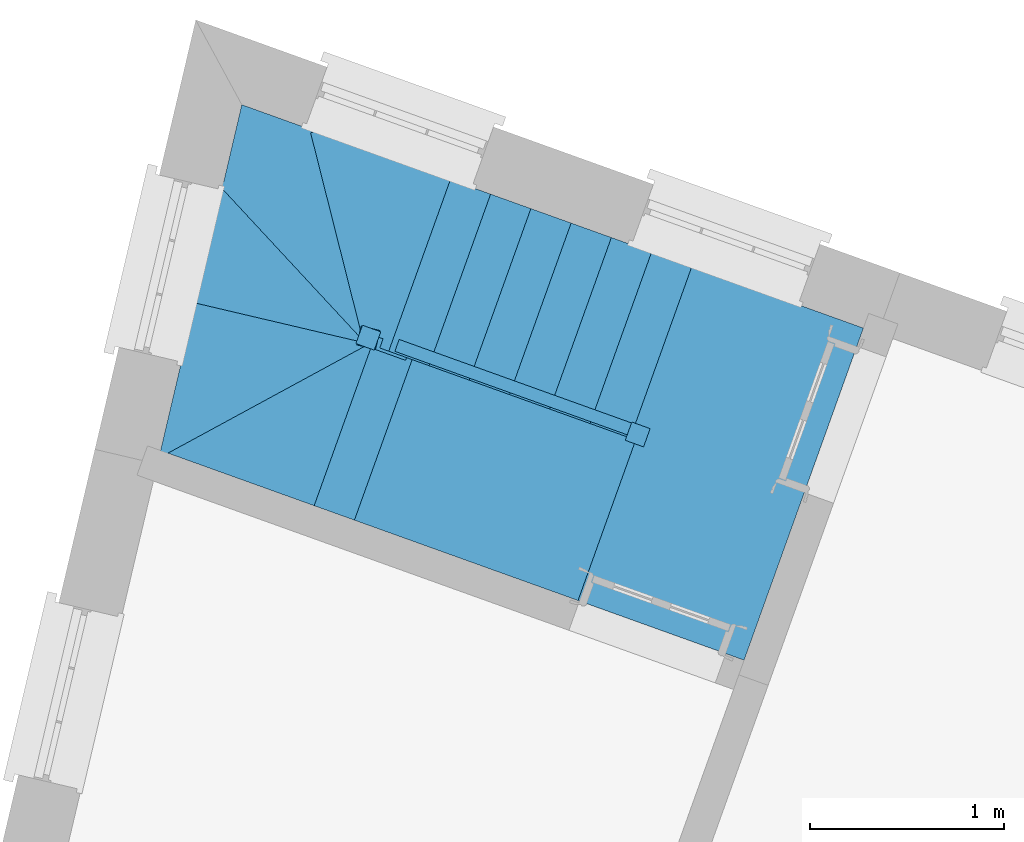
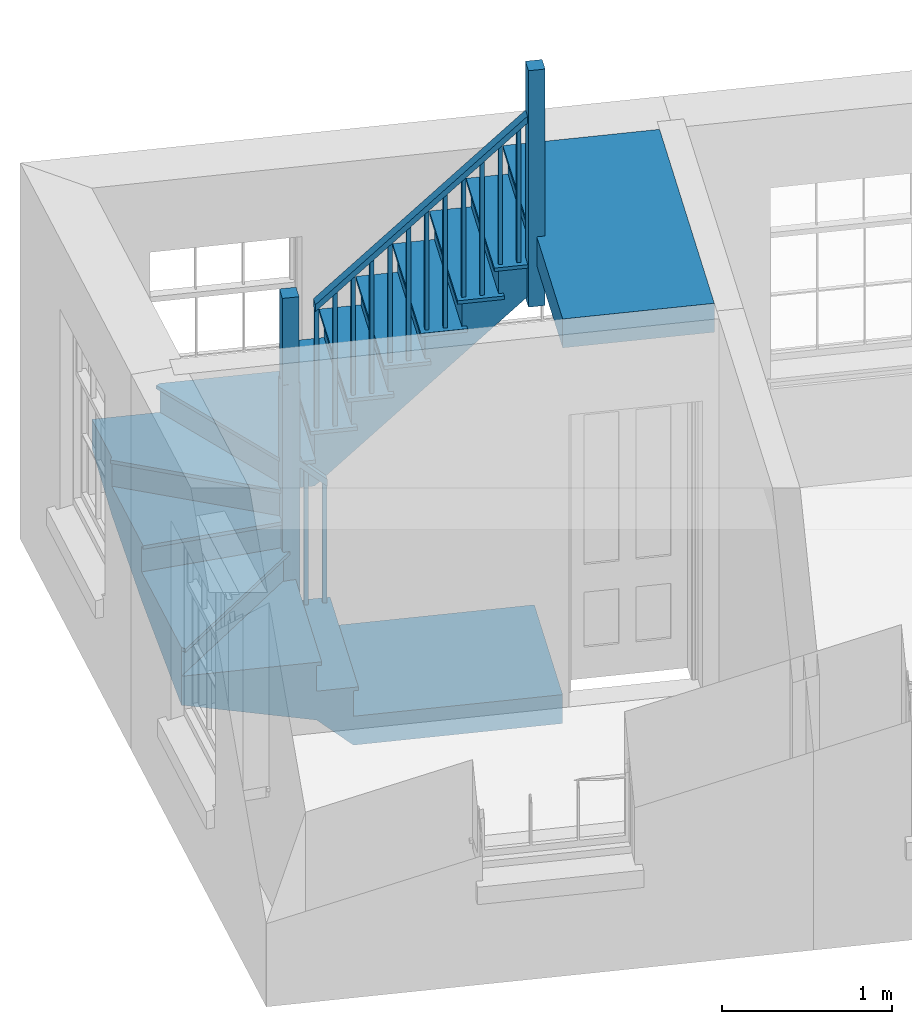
# One storey, part 3 of 3: 1 stair.
"""IFC4 building model written with IfcOpenShell, lengths in metres."""

import ifcopenshell
import ifcopenshell.guid

model = None  # the IFC model being written
_history = None  # IfcOwnerHistory: only IFC2X3 demands one
_inside = {}  # id of a spatial element -> (the spatial element, [elements in it])
_under = {}  # id of a project, library or spatial element -> (it, [spatial elements below it])
_declared = {}  # id of a project -> (the project, [libraries it declares])
_typed = {}  # id of a type object -> (the type object, [elements of that type])
_made_of = {}  # id of a material, layer set ... -> (it, [elements and type objects made of it])


def new_model(schema):
    """Start an empty IFC model of exactly this schema.

    Asked for "IFC4X3", IfcOpenShell would pick the latest addendum, in which some entities
    have other attributes; the version numbers below select the first issue.
    IFC2X3 requires an IfcOwnerHistory on every rooted entity: one is made here for all.
    """
    global model, _history
    if schema == "IFC4X3":
        model = ifcopenshell.file(schema_version=(4, 3, 0, 0))
    else:
        model = ifcopenshell.file(schema=schema)
    _inside.clear()
    _under.clear()
    _declared.clear()
    _typed.clear()
    _made_of.clear()
    _history = None
    if model.schema == "IFC2X3":
        org = make("IfcOrganization", Name="unknown")
        user = make(
            "IfcPersonAndOrganization",
            ThePerson=make("IfcPerson", FamilyName="unknown"),
            TheOrganization=org,
        )
        app = make(
            "IfcApplication",
            ApplicationDeveloper=org,
            Version="unknown",
            ApplicationFullName="unknown",
            ApplicationIdentifier="unknown",
        )
        _history = make(
            "IfcOwnerHistory",
            OwningUser=user,
            OwningApplication=app,
            ChangeAction="ADDED",
            CreationDate=0,
        )
    return model


def make(cls, **values):
    """One entity of the class cls with the attributes given. An attribute that is None is left unset."""
    return model.create_entity(
        cls, **{name: value for name, value in values.items() if value is not None}
    )


def rooted(cls, **values):
    """An entity with a GlobalId (a new one), such as an element, a storey or a relation."""
    return make(cls, GlobalId=ifcopenshell.guid.new(), OwnerHistory=_history, **values)


def si_unit(unit_type, name, prefix=None):
    """IfcSIUnit, for example si_unit("LENGTHUNIT", "METRE", prefix="MILLI")."""
    return make("IfcSIUnit", UnitType=unit_type, Prefix=prefix, Name=name)


def assignment(units):
    """IfcUnitAssignment: the units of a project."""
    return None if units is None else make("IfcUnitAssignment", Units=units)


def point(xyz):
    """IfcCartesianPoint."""
    return None if xyz is None else make("IfcCartesianPoint", Coordinates=xyz)


def direction(xyz):
    """IfcDirection."""
    return None if xyz is None else make("IfcDirection", DirectionRatios=xyz)


def frame(location, z_axis=None, x_axis=None):
    """IfcAxis2Placement3D, a coordinate frame: its origin and axes. An axis left out is left unset."""
    return make(
        "IfcAxis2Placement3D",
        Location=point(location),
        Axis=direction(z_axis),
        RefDirection=direction(x_axis),
    )


def origin():
    """The frame at (0, 0, 0) with its axes left unset."""
    return frame((0.0, 0.0, 0.0))


def origin_with_axes():
    """The frame at (0, 0, 0) with the z axis (0, 0, 1) and the x axis (1, 0, 0) written out."""
    return frame((0.0, 0.0, 0.0), z_axis=(0.0, 0.0, 1.0), x_axis=(1.0, 0.0, 0.0))


def place(relative_to, where):
    """IfcLocalPlacement: puts the frame where relative to a parent placement (None: the world)."""
    return make(
        "IfcLocalPlacement", PlacementRelTo=relative_to, RelativePlacement=where
    )


def context(
    kind, dimensions, precision=None, world=None, true_north=None, identifier=None
):
    """IfcGeometricRepresentationContext, for example the 3D "Model" context."""
    return make(
        "IfcGeometricRepresentationContext",
        ContextIdentifier=identifier,
        ContextType=kind,
        CoordinateSpaceDimension=dimensions,
        Precision=precision,
        WorldCoordinateSystem=world,
        TrueNorth=true_north,
    )


def subcontext(parent, identifier, kind, view, scale=None):
    """IfcGeometricRepresentationSubContext, for example "Body" below "Model"."""
    return make(
        "IfcGeometricRepresentationSubContext",
        ContextIdentifier=identifier,
        ContextType=kind,
        ParentContext=parent,
        TargetScale=scale,
        TargetView=view,
    )


def project(units=None, contexts=None):
    """IfcProject with its units and contexts."""
    return rooted(
        "IfcProject",
        Name="project",
        RepresentationContexts=contexts,
        UnitsInContext=assignment(units),
    )


def spatial(cls, under=None, at=None, **own):
    """A site, building, storey or space (cls), placed at a placement, below another one or the project."""
    s = rooted(cls, ObjectPlacement=at, **own)
    if under is not None:
        _under.setdefault(under.id(), (under, []))[1].append(s)
    return s


def faces_of(points, faces, orient=None, outer=None):
    """IfcFace entities. A face is a list of loops; a loop is a list of indices into points, from 0.

    orient and outer hold one flag for each loop. By default every Orientation is true, the
    first loop of a face is its IfcFaceOuterBound and the others are IfcFaceBound.
    """
    made = []
    for i, loops in enumerate(faces):
        bounds = []
        for j, loop in enumerate(loops):
            is_outer = j == 0 if outer is None else outer[i][j]
            bounds.append(
                make(
                    "IfcFaceOuterBound" if is_outer else "IfcFaceBound",
                    Bound=make("IfcPolyLoop", Polygon=[points[k] for k in loop]),
                    Orientation=True if orient is None else orient[i][j],
                )
            )
        made.append(make("IfcFace", Bounds=bounds))
    return made


def faceted_brep(points, faces, orient=None, outer=None, voids=None):
    """IfcFacetedBrep: a solid bounded by flat faces; with voids (closed shells), ...WithVoids."""
    shared = [point(p) for p in points]
    hull = make("IfcClosedShell", CfsFaces=faces_of(shared, faces, orient, outer))
    if voids is None:
        return make("IfcFacetedBrep", Outer=hull)
    return make(
        "IfcFacetedBrepWithVoids",
        Outer=hull,
        Voids=[
            make(cls, CfsFaces=faces_of(shared, fs, o, b)) for cls, fs, o, b in voids
        ],
    )


def shape(context_of_items, identifier, shape_type, items):
    """IfcShapeRepresentation: the items that make up one representation, for example the "Body"."""
    return make(
        "IfcShapeRepresentation",
        ContextOfItems=context_of_items,
        RepresentationIdentifier=identifier,
        RepresentationType=shape_type,
        Items=items,
    )


def made_of(thing, what):
    """Note that an element or type object is made of a material, layer set ...; save() writes the relation."""
    if what is not None:
        _made_of.setdefault(what.id(), (what, []))[1].append(thing)
    return thing


def element(
    cls,
    number,
    at=None,
    inside=None,
    cuts=None,
    type_object=None,
    material=None,
    context=None,
    identifier="Body",
    shape_type=None,
    held_by="IfcProductDefinitionShape",
    body=None,
    shapes=None,
    **own,
):
    """One element of the class cls, such as IfcWall. Its Tag is "e" and its number.

    at: its placement. inside: the storey or other place that contains it. cuts: it is an
    opening in that element (IfcRelVoidsElement). A single representation is given by context,
    identifier, shape_type and body (its items); several are given by shapes. held_by: the class
    of the entity that holds the representations. save() writes the other relations.
    """
    e = rooted(cls, Tag="e%d" % number, ObjectPlacement=at, **own)
    if body is not None:
        shapes = [shape(context, identifier, shape_type, body)]
    if shapes is not None:
        e.Representation = make(held_by, Representations=shapes)
    if inside is not None:
        _inside.setdefault(inside.id(), (inside, []))[1].append(e)
    if cuts is not None:
        rooted(
            "IfcRelVoidsElement", RelatingBuildingElement=cuts, RelatedOpeningElement=e
        )
    if type_object is not None:
        _typed.setdefault(type_object.id(), (type_object, []))[1].append(e)
    return made_of(e, material)


def aggregate(whole, parts):
    """IfcRelAggregates: a whole, such as a stair, and the parts it consists of."""
    return rooted("IfcRelAggregates", RelatingObject=whole, RelatedObjects=parts)


def save(model, path):
    """Write the relations noted so far, then the file.

    IfcRelAggregates (storeys below a building ...), IfcRelContainedInSpatialStructure (elements
    in a storey), IfcRelDefinesByType, IfcRelAssociatesMaterial and IfcRelDeclares: one each for
    every whole, place, type object, material and project.
    """
    for whole, parts in _under.values():
        aggregate(whole, parts)
    for where, things in _inside.values():
        rooted(
            "IfcRelContainedInSpatialStructure",
            RelatedElements=things,
            RelatingStructure=where,
        )
    for kind, things in _typed.values():
        rooted("IfcRelDefinesByType", RelatedObjects=things, RelatingType=kind)
    for what, things in _made_of.values():
        rooted("IfcRelAssociatesMaterial", RelatedObjects=things, RelatingMaterial=what)
    for by, libraries in _declared.values():
        rooted("IfcRelDeclares", RelatingContext=by, RelatedDefinitions=libraries)
    model.write(path)


model = new_model("IFC4")

# Units and contexts
model_context = context("Model", 3, world=origin_with_axes())
body_context = subcontext(model_context, "Body", "Model", "MODEL_VIEW")
ifc_project = project(units=[si_unit("PLANEANGLEUNIT", "RADIAN"), si_unit("MASSUNIT", "GRAM", prefix="KILO"), si_unit("FORCEUNIT", "NEWTON", prefix="KILO"), si_unit("LENGTHUNIT", "METRE"), si_unit("AREAUNIT", "SQUARE_METRE"), si_unit("VOLUMEUNIT", "CUBIC_METRE")], contexts=[model_context, model_context])

# Sites, building, storey
site_1_placement = place(None, origin_with_axes())
site_1 = spatial("IfcSite", under=ifc_project, at=site_1_placement, Name="Tamar")
site_2_placement = place(site_1_placement, origin_with_axes())
site_2 = spatial("IfcSite", under=site_1, at=site_2_placement, Name="Site plot-22", CompositionType="ELEMENT")
building_placement = place(None, origin_with_axes())
building = spatial("IfcBuilding", under=site_2, at=building_placement, Name="Building plot-22", CompositionType="ELEMENT")
storey_placement = place(None, frame((0.0, 0.0, 27.8), z_axis=(0.0, 0.0, 1.0), x_axis=(1.0, 0.0, 0.0)))
storey = spatial("IfcBuildingStorey", under=building, at=storey_placement, Name="plot-22 1", CompositionType="ELEMENT", Elevation=27.8)

# Stair
stair_placement = place(None, origin())
element("IfcStair", 1, at=stair_placement, inside=storey, Name="Stair", PredefinedType="NOTDEFINED", context=body_context, shape_type="Brep", body=[
    faceted_brep([(253.166123, 274.428424, 30.292308), (253.473071, 275.282639, 30.292308), (253.266031, 275.357035, 30.292308), (252.959083, 274.50282, 30.292308), (252.959083, 274.50282, 29.876923), (253.266031, 275.357035, 29.876923), (253.473071, 275.282639, 30.084615), (253.166123, 274.428424, 30.084615)], [[[0, 1, 2, 3]], [[4, 5, 6, 7]], [[7, 6, 1, 0]], [[1, 6, 5, 2]], [[5, 4, 3, 2]], [[3, 4, 7, 0]]]),
    faceted_brep([(253.237799, 275.36718, 30.267308), (253.237799, 275.36718, 30.292308), (253.266031, 275.357035, 30.267308), (253.501303, 275.272494, 30.292308), (253.501303, 275.272494, 30.267308), (253.473071, 275.282639, 30.267308), (253.266031, 275.357035, 30.292308), (253.473071, 275.282639, 30.292308), (252.920706, 274.484733, 30.292308), (252.959083, 274.50282, 30.292308), (252.959083, 274.50282, 30.267308), (252.920706, 274.484733, 30.267308), (253.18421, 274.390047, 30.292308), (253.166123, 274.428424, 30.292308), (253.166123, 274.428424, 30.267308), (253.18421, 274.390047, 30.267308)], [[[0, 1, 2]], [[3, 4, 5]], [[2, 1, 6]], [[3, 5, 7]], [[6, 1, 8, 9]], [[2, 6, 9, 10]], [[0, 2, 10, 11]], [[1, 0, 11, 8]], [[9, 8, 12, 13]], [[10, 9, 13, 14]], [[11, 10, 14, 15]], [[8, 11, 15, 12]], [[13, 12, 3, 7]], [[14, 13, 7, 5]], [[15, 14, 5, 4]], [[12, 15, 4, 3]]]),
    faceted_brep([(252.959083, 274.50282, 31.192308), (252.982611, 274.494366, 31.192308), (252.991065, 274.517893, 31.192308), (252.967537, 274.526348, 31.192308), (252.967537, 274.526348, 30.292308), (252.991065, 274.517893, 30.292308), (252.982611, 274.494366, 30.292308), (252.959083, 274.50282, 30.292308)], [[[0, 1, 2, 3]], [[4, 5, 6, 7]], [[7, 6, 1, 0]], [[6, 5, 2, 1]], [[5, 4, 3, 2]], [[4, 7, 0, 3]]]),
    faceted_brep([(253.062603, 274.465622, 31.296154), (253.08613, 274.457168, 31.296154), (253.094584, 274.480695, 31.296154), (253.071057, 274.48915, 31.296154), (253.071057, 274.48915, 30.292308), (253.094584, 274.480695, 30.292308), (253.08613, 274.457168, 30.292308), (253.062603, 274.465622, 30.292308)], [[[0, 1, 2, 3]], [[4, 5, 6, 7]], [[7, 6, 1, 0]], [[6, 5, 2, 1]], [[5, 4, 3, 2]], [[4, 7, 0, 3]]]),
    faceted_brep([(252.974301, 274.545169, 31.142308), (252.95232, 274.483999, 31.142308), (252.95232, 274.483999, 31.192308), (252.974301, 274.545169, 31.192308), (253.159359, 274.409603, 31.35), (253.18134, 274.470773, 31.35), (253.18134, 274.470773, 31.4), (253.159359, 274.409603, 31.4)], [[[0, 1, 2, 3]], [[4, 5, 6, 7]], [[0, 5, 4, 1]], [[3, 2, 7, 6]], [[0, 3, 6, 5]], [[2, 1, 4, 7]]]),
    faceted_brep([(252.959083, 274.50282, 30.084615), (253.266031, 275.357035, 30.084615), (253.058992, 275.431431, 30.084615), (252.752044, 274.577216, 30.084615), (252.752044, 274.577216, 29.669231), (253.058992, 275.431431, 29.669231), (253.266031, 275.357035, 29.876923), (252.959083, 274.50282, 29.876923)], [[[0, 1, 2, 3]], [[4, 5, 6, 7]], [[7, 6, 1, 0]], [[1, 6, 5, 2]], [[5, 4, 3, 2]], [[3, 4, 7, 0]]]),
    faceted_brep([(253.058992, 275.431431, 30.059615), (253.03076, 275.441576, 30.059615), (253.058992, 275.431431, 30.084615), (253.294264, 275.34689, 30.059615), (253.266031, 275.357035, 30.059615), (253.266031, 275.357035, 30.084615), (253.03076, 275.441576, 30.084615), (253.294264, 275.34689, 30.084615), (252.713667, 274.559129, 30.084615), (252.752044, 274.577216, 30.084615), (252.752044, 274.577216, 30.059615), (252.713667, 274.559129, 30.059615), (252.977171, 274.464443, 30.084615), (252.959083, 274.50282, 30.084615), (252.959083, 274.50282, 30.059615), (252.977171, 274.464443, 30.059615)], [[[0, 1, 2]], [[3, 4, 5]], [[1, 6, 2]], [[7, 3, 5]], [[2, 6, 8, 9]], [[0, 2, 9, 10]], [[1, 0, 10, 11]], [[6, 1, 11, 8]], [[9, 8, 12, 13]], [[10, 9, 13, 14]], [[11, 10, 14, 15]], [[8, 11, 15, 12]], [[13, 12, 7, 5]], [[14, 13, 5, 4]], [[15, 14, 4, 3]], [[12, 15, 3, 7]]]),
    faceted_brep([(252.752044, 274.577216, 30.984615), (252.775571, 274.568762, 30.984615), (252.784025, 274.59229, 30.984615), (252.760498, 274.600744, 30.984615), (252.760498, 274.600744, 30.084615), (252.784025, 274.59229, 30.084615), (252.775571, 274.568762, 30.084615), (252.752044, 274.577216, 30.084615)], [[[0, 1, 2, 3]], [[4, 5, 6, 7]], [[7, 6, 1, 0]], [[6, 5, 2, 1]], [[5, 4, 3, 2]], [[4, 7, 0, 3]]]),
    faceted_brep([(252.855564, 274.540018, 31.088462), (252.879091, 274.531564, 31.088462), (252.887545, 274.555091, 31.088462), (252.864018, 274.563546, 31.088462), (252.864018, 274.563546, 30.084615), (252.887545, 274.555091, 30.084615), (252.879091, 274.531564, 30.084615), (252.855564, 274.540018, 30.084615)], [[[0, 1, 2, 3]], [[4, 5, 6, 7]], [[7, 6, 1, 0]], [[6, 5, 2, 1]], [[5, 4, 3, 2]], [[4, 7, 0, 3]]]),
    faceted_brep([(252.767262, 274.619565, 30.934615), (252.745281, 274.558395, 30.934615), (252.745281, 274.558395, 30.984615), (252.767262, 274.619565, 30.984615), (252.95232, 274.483999, 31.142308), (252.974301, 274.545169, 31.142308), (252.974301, 274.545169, 31.192308), (252.95232, 274.483999, 31.192308)], [[[0, 1, 2, 3]], [[4, 5, 6, 7]], [[0, 5, 4, 1]], [[3, 2, 7, 6]], [[0, 3, 6, 5]], [[2, 1, 4, 7]]]),
    faceted_brep([(252.752044, 274.577216, 29.876923), (253.058992, 275.431431, 29.876923), (252.851953, 275.505828, 29.876923), (252.545005, 274.651613, 29.876923), (252.545005, 274.651613, 29.461538), (252.851953, 275.505828, 29.461538), (253.058992, 275.431431, 29.669231), (252.752044, 274.577216, 29.669231)], [[[0, 1, 2, 3]], [[4, 5, 6, 7]], [[7, 6, 1, 0]], [[1, 6, 5, 2]], [[5, 4, 3, 2]], [[3, 4, 7, 0]]]),
    faceted_brep([(252.851953, 275.505828, 29.851923), (252.82372, 275.515972, 29.851923), (252.851953, 275.505828, 29.876923), (253.087225, 275.421287, 29.851923), (253.058992, 275.431431, 29.851923), (253.058992, 275.431431, 29.876923), (252.82372, 275.515972, 29.876923), (253.087225, 275.421287, 29.876923), (252.506627, 274.633525, 29.876923), (252.545005, 274.651613, 29.876923), (252.545005, 274.651613, 29.851923), (252.506627, 274.633525, 29.851923), (252.770132, 274.538839, 29.876923), (252.752044, 274.577216, 29.876923), (252.752044, 274.577216, 29.851923), (252.770132, 274.538839, 29.851923)], [[[0, 1, 2]], [[3, 4, 5]], [[1, 6, 2]], [[7, 3, 5]], [[2, 6, 8, 9]], [[0, 2, 9, 10]], [[1, 0, 10, 11]], [[6, 1, 11, 8]], [[9, 8, 12, 13]], [[10, 9, 13, 14]], [[11, 10, 14, 15]], [[8, 11, 15, 12]], [[13, 12, 7, 5]], [[14, 13, 5, 4]], [[15, 14, 4, 3]], [[12, 15, 3, 7]]]),
    faceted_brep([(252.545005, 274.651613, 30.776923), (252.568532, 274.643158, 30.776923), (252.576986, 274.666686, 30.776923), (252.553459, 274.67514, 30.776923), (252.553459, 274.67514, 29.876923), (252.576986, 274.666686, 29.876923), (252.568532, 274.643158, 29.876923), (252.545005, 274.651613, 29.876923)], [[[0, 1, 2, 3]], [[4, 5, 6, 7]], [[7, 6, 1, 0]], [[6, 5, 2, 1]], [[5, 4, 3, 2]], [[4, 7, 0, 3]]]),
    faceted_brep([(252.648525, 274.614415, 30.880769), (252.672052, 274.60596, 30.880769), (252.680506, 274.629488, 30.880769), (252.656979, 274.637942, 30.880769), (252.656979, 274.637942, 29.876923), (252.680506, 274.629488, 29.876923), (252.672052, 274.60596, 29.876923), (252.648525, 274.614415, 29.876923)], [[[0, 1, 2, 3]], [[4, 5, 6, 7]], [[7, 6, 1, 0]], [[6, 5, 2, 1]], [[5, 4, 3, 2]], [[4, 7, 0, 3]]]),
    faceted_brep([(252.560222, 274.693961, 30.726923), (252.538242, 274.632791, 30.726923), (252.538242, 274.632791, 30.776923), (252.560222, 274.693961, 30.776923), (252.745281, 274.558395, 30.934615), (252.767262, 274.619565, 30.934615), (252.767262, 274.619565, 30.984615), (252.745281, 274.558395, 30.984615)], [[[0, 1, 2, 3]], [[4, 5, 6, 7]], [[0, 5, 4, 1]], [[3, 2, 7, 6]], [[0, 3, 6, 5]], [[2, 1, 4, 7]]]),
    faceted_brep([(252.545005, 274.651613, 29.669231), (252.851953, 275.505828, 29.669231), (252.644914, 275.580224, 29.669231), (252.337966, 274.726009, 29.669231), (252.337966, 274.726009, 29.253846), (252.644914, 275.580224, 29.253846), (252.851953, 275.505828, 29.461538), (252.545005, 274.651613, 29.461538)], [[[0, 1, 2, 3]], [[4, 5, 6, 7]], [[7, 6, 1, 0]], [[1, 6, 5, 2]], [[5, 4, 3, 2]], [[3, 4, 7, 0]]]),
    faceted_brep([(252.616681, 275.590369, 29.644231), (252.616681, 275.590369, 29.669231), (252.644914, 275.580224, 29.644231), (252.880186, 275.495683, 29.669231), (252.880186, 275.495683, 29.644231), (252.851953, 275.505828, 29.644231), (252.644914, 275.580224, 29.669231), (252.851953, 275.505828, 29.669231), (252.299588, 274.707921, 29.669231), (252.337966, 274.726009, 29.669231), (252.337966, 274.726009, 29.644231), (252.299588, 274.707921, 29.644231), (252.563093, 274.613235, 29.669231), (252.545005, 274.651613, 29.669231), (252.545005, 274.651613, 29.644231), (252.563093, 274.613235, 29.644231)], [[[0, 1, 2]], [[3, 4, 5]], [[2, 1, 6]], [[3, 5, 7]], [[6, 1, 8, 9]], [[2, 6, 9, 10]], [[0, 2, 10, 11]], [[1, 0, 11, 8]], [[9, 8, 12, 13]], [[10, 9, 13, 14]], [[11, 10, 14, 15]], [[8, 11, 15, 12]], [[13, 12, 3, 7]], [[14, 13, 7, 5]], [[15, 14, 5, 4]], [[12, 15, 4, 3]]]),
    faceted_brep([(252.337966, 274.726009, 30.569231), (252.361493, 274.717555, 30.569231), (252.369947, 274.741082, 30.569231), (252.34642, 274.749536, 30.569231), (252.34642, 274.749536, 29.669231), (252.369947, 274.741082, 29.669231), (252.361493, 274.717555, 29.669231), (252.337966, 274.726009, 29.669231)], [[[0, 1, 2, 3]], [[4, 5, 6, 7]], [[7, 6, 1, 0]], [[6, 5, 2, 1]], [[5, 4, 3, 2]], [[4, 7, 0, 3]]]),
    faceted_brep([(252.441485, 274.688811, 30.673077), (252.465013, 274.680357, 30.673077), (252.473467, 274.703884, 30.673077), (252.44994, 274.712338, 30.673077), (252.44994, 274.712338, 29.669231), (252.473467, 274.703884, 29.669231), (252.465013, 274.680357, 29.669231), (252.441485, 274.688811, 29.669231)], [[[0, 1, 2, 3]], [[4, 5, 6, 7]], [[7, 6, 1, 0]], [[6, 5, 2, 1]], [[5, 4, 3, 2]], [[4, 7, 0, 3]]]),
    faceted_brep([(252.353183, 274.768358, 30.519231), (252.331203, 274.707187, 30.519231), (252.331203, 274.707187, 30.569231), (252.353183, 274.768358, 30.569231), (252.538242, 274.632791, 30.726923), (252.560222, 274.693961, 30.726923), (252.560222, 274.693961, 30.776923), (252.538242, 274.632791, 30.776923)], [[[0, 1, 2, 3]], [[4, 5, 6, 7]], [[0, 5, 4, 1]], [[3, 2, 7, 6]], [[0, 3, 6, 5]], [[2, 1, 4, 7]]]),
    faceted_brep([(252.337966, 274.726009, 29.461538), (252.644914, 275.580224, 29.461538), (252.437875, 275.65462, 29.461538), (252.130927, 274.800405, 29.461538), (252.130927, 274.800405, 29.046154), (252.437875, 275.65462, 29.046154), (252.644914, 275.580224, 29.253846), (252.337966, 274.726009, 29.253846)], [[[0, 1, 2, 3]], [[4, 5, 6, 7]], [[7, 6, 1, 0]], [[1, 6, 5, 2]], [[5, 4, 3, 2]], [[3, 4, 7, 0]]]),
    faceted_brep([(252.437875, 275.65462, 29.436538), (252.409642, 275.664765, 29.436538), (252.437875, 275.65462, 29.461538), (252.673146, 275.570079, 29.436538), (252.644914, 275.580224, 29.436538), (252.644914, 275.580224, 29.461538), (252.409642, 275.664765, 29.461538), (252.673146, 275.570079, 29.461538), (252.092549, 274.782317, 29.461538), (252.130927, 274.800405, 29.461538), (252.130927, 274.800405, 29.436538), (252.092549, 274.782317, 29.436538), (252.356054, 274.687631, 29.461538), (252.337966, 274.726009, 29.461538), (252.337966, 274.726009, 29.436538), (252.356054, 274.687631, 29.436538)], [[[0, 1, 2]], [[3, 4, 5]], [[1, 6, 2]], [[7, 3, 5]], [[2, 6, 8, 9]], [[0, 2, 9, 10]], [[1, 0, 10, 11]], [[6, 1, 11, 8]], [[9, 8, 12, 13]], [[10, 9, 13, 14]], [[11, 10, 14, 15]], [[8, 11, 15, 12]], [[13, 12, 7, 5]], [[14, 13, 5, 4]], [[15, 14, 4, 3]], [[12, 15, 3, 7]]]),
    faceted_brep([(252.130927, 274.800405, 30.361538), (252.154454, 274.791951, 30.361538), (252.162908, 274.815478, 30.361538), (252.139381, 274.823932, 30.361538), (252.139381, 274.823932, 29.461538), (252.162908, 274.815478, 29.461538), (252.154454, 274.791951, 29.461538), (252.130927, 274.800405, 29.461538)], [[[0, 1, 2, 3]], [[4, 5, 6, 7]], [[7, 6, 1, 0]], [[6, 5, 2, 1]], [[5, 4, 3, 2]], [[4, 7, 0, 3]]]),
    faceted_brep([(252.234446, 274.763207, 30.465385), (252.257973, 274.754753, 30.465385), (252.266428, 274.77828, 30.465385), (252.2429, 274.786734, 30.465385), (252.2429, 274.786734, 29.461538), (252.266428, 274.77828, 29.461538), (252.257973, 274.754753, 29.461538), (252.234446, 274.763207, 29.461538)], [[[0, 1, 2, 3]], [[4, 5, 6, 7]], [[7, 6, 1, 0]], [[6, 5, 2, 1]], [[5, 4, 3, 2]], [[4, 7, 0, 3]]]),
    faceted_brep([(252.146144, 274.842754, 30.311538), (252.124163, 274.781583, 30.311538), (252.124163, 274.781583, 30.361538), (252.146144, 274.842754, 30.361538), (252.331203, 274.707187, 30.519231), (252.353183, 274.768358, 30.519231), (252.353183, 274.768358, 30.569231), (252.331203, 274.707187, 30.569231)], [[[0, 1, 2, 3]], [[4, 5, 6, 7]], [[0, 5, 4, 1]], [[3, 2, 7, 6]], [[0, 3, 6, 5]], [[2, 1, 4, 7]]]),
    faceted_brep([(252.130927, 274.800405, 29.253846), (252.437875, 275.65462, 29.253846), (252.230836, 275.729016, 29.253846), (251.923887, 274.874801, 29.253846), (251.923887, 274.874801, 28.838462), (252.230836, 275.729016, 28.838462), (252.437875, 275.65462, 29.046154), (252.130927, 274.800405, 29.046154)], [[[0, 1, 2, 3]], [[4, 5, 6, 7]], [[7, 6, 1, 0]], [[1, 6, 5, 2]], [[5, 4, 3, 2]], [[3, 4, 7, 0]]]),
    faceted_brep([(252.230836, 275.729016, 29.228846), (252.202603, 275.739161, 29.228846), (252.230836, 275.729016, 29.253846), (252.466107, 275.644475, 29.228846), (252.437875, 275.65462, 29.228846), (252.437875, 275.65462, 29.253846), (252.202603, 275.739161, 29.253846), (252.466107, 275.644475, 29.253846), (251.88551, 274.856713, 29.253846), (251.923887, 274.874801, 29.253846), (251.923887, 274.874801, 29.228846), (251.88551, 274.856713, 29.228846), (252.149014, 274.762027, 29.253846), (252.130927, 274.800405, 29.253846), (252.130927, 274.800405, 29.228846), (252.149014, 274.762027, 29.228846)], [[[0, 1, 2]], [[3, 4, 5]], [[1, 6, 2]], [[7, 3, 5]], [[2, 6, 8, 9]], [[0, 2, 9, 10]], [[1, 0, 10, 11]], [[6, 1, 11, 8]], [[9, 8, 12, 13]], [[10, 9, 13, 14]], [[11, 10, 14, 15]], [[8, 11, 15, 12]], [[13, 12, 7, 5]], [[14, 13, 5, 4]], [[15, 14, 4, 3]], [[12, 15, 3, 7]]]),
    faceted_brep([(251.923887, 274.874801, 30.153846), (251.947415, 274.866347, 30.153846), (251.955869, 274.889874, 30.153846), (251.932342, 274.898328, 30.153846), (251.932342, 274.898328, 29.253846), (251.955869, 274.889874, 29.253846), (251.947415, 274.866347, 29.253846), (251.923887, 274.874801, 29.253846)], [[[0, 1, 2, 3]], [[4, 5, 6, 7]], [[7, 6, 1, 0]], [[6, 5, 2, 1]], [[5, 4, 3, 2]], [[4, 7, 0, 3]]]),
    faceted_brep([(252.027407, 274.837603, 30.257692), (252.050934, 274.829149, 30.257692), (252.059388, 274.852676, 30.257692), (252.035861, 274.86113, 30.257692), (252.035861, 274.86113, 29.253846), (252.059388, 274.852676, 29.253846), (252.050934, 274.829149, 29.253846), (252.027407, 274.837603, 29.253846)], [[[0, 1, 2, 3]], [[4, 5, 6, 7]], [[7, 6, 1, 0]], [[6, 5, 2, 1]], [[5, 4, 3, 2]], [[4, 7, 0, 3]]]),
    faceted_brep([(251.939105, 274.91715, 30.103846), (251.917124, 274.855979, 30.103846), (251.917124, 274.855979, 30.153846), (251.939105, 274.91715, 30.153846), (252.124163, 274.781583, 30.311538), (252.146144, 274.842754, 30.311538), (252.146144, 274.842754, 30.361538), (252.124163, 274.781583, 30.361538)], [[[0, 1, 2, 3]], [[4, 5, 6, 7]], [[0, 5, 4, 1]], [[3, 2, 7, 6]], [[0, 3, 6, 5]], [[2, 1, 4, 7]]]),
    faceted_brep([(251.923887, 274.874801, 29.046154), (252.230836, 275.729016, 29.046154), (252.087567, 275.780497, 29.046154), (251.780619, 274.926282, 29.046154), (251.780619, 274.926282, 28.838462), (252.087567, 275.780497, 28.838462), (252.230836, 275.729016, 28.838462), (251.923887, 274.874801, 28.838462)], [[[0, 1, 2, 3]], [[4, 5, 6, 7]], [[7, 6, 1, 0]], [[6, 5, 2, 1]], [[5, 4, 3, 2]], [[4, 7, 0, 3]]]),
    faceted_brep([(251.770475, 274.898049, 29.021154), (251.770475, 274.898049, 29.046154), (251.780619, 274.926282, 29.021154), (251.913743, 274.846568, 29.046154), (251.913743, 274.846568, 29.021154), (251.923887, 274.874801, 29.021154), (251.780619, 274.926282, 29.046154), (251.923887, 274.874801, 29.046154)], [[[0, 1, 2]], [[3, 4, 5]], [[2, 1, 6]], [[3, 5, 7]], [[6, 1, 3, 7]], [[2, 6, 7, 5]], [[0, 2, 5, 4]], [[1, 0, 4, 3]]]),
    faceted_brep([(251.716657, 274.896136, 30.246154), (251.810766, 274.862319, 30.246154), (251.844582, 274.956428, 30.246154), (251.750473, 274.990244, 30.246154), (251.750473, 274.990244, 29.046154), (251.844582, 274.956428, 29.046154), (251.810766, 274.862319, 29.046154), (251.716657, 274.896136, 29.046154)], [[[0, 1, 2, 3]], [[4, 5, 6, 7]], [[7, 6, 1, 0]], [[6, 5, 2, 1]], [[5, 4, 3, 2]], [[4, 7, 0, 3]]]),
    faceted_brep([(252.087567, 275.780497, 29.046154), (251.512851, 275.987012, 29.046154), (251.780619, 274.926282, 29.046154), (251.780619, 274.926282, 28.630769), (251.512851, 275.987012, 28.630769), (252.087567, 275.780497, 28.838462)], [[[0, 1, 2]], [[3, 4, 5]], [[0, 5, 4, 1]], [[4, 3, 2, 1]], [[2, 3, 5, 0]]]),
    faceted_brep([(251.512851, 275.987012, 29.021154), (251.483763, 275.979669, 29.021154), (251.512851, 275.987012, 29.046154), (251.751532, 274.918939, 29.021154), (251.780619, 274.926282, 29.021154), (251.780619, 274.926282, 29.046154), (251.483763, 275.979669, 29.046154), (251.751532, 274.918939, 29.046154)], [[[0, 1, 2]], [[3, 4, 5]], [[1, 6, 2]], [[7, 3, 5]], [[2, 6, 7, 5]], [[0, 2, 5, 4]], [[1, 0, 4, 3]], [[6, 1, 3, 7]]]),
    faceted_brep([(251.512851, 275.987012, 28.838462), (251.129707, 276.124688, 28.838462), (251.036615, 275.728345, 28.838462), (251.780619, 274.926282, 28.838462), (251.780619, 274.926282, 28.423077), (251.036615, 275.728345, 28.423077), (251.129707, 276.124688, 28.630769), (251.512851, 275.987012, 28.630769)], [[[0, 1, 2, 3]], [[4, 5, 6, 7]], [[7, 6, 1, 0]], [[1, 6, 5, 2]], [[5, 4, 3, 2]], [[3, 4, 7, 0]]]),
    faceted_brep([(251.036615, 275.728345, 28.813462), (251.01462, 275.707942, 28.813462), (251.036615, 275.728345, 28.838462), (251.758625, 274.90588, 28.813462), (251.780619, 274.926282, 28.813462), (251.780619, 274.926282, 28.838462), (251.01462, 275.707942, 28.838462), (251.758625, 274.90588, 28.838462)], [[[0, 1, 2]], [[3, 4, 5]], [[1, 6, 2]], [[7, 3, 5]], [[2, 6, 7, 5]], [[0, 2, 5, 4]], [[1, 0, 4, 3]], [[6, 1, 3, 7]]]),
    faceted_brep([(251.036615, 275.728345, 28.630769), (250.896977, 275.133829, 28.630769), (251.780619, 274.926282, 28.630769), (251.780619, 274.926282, 28.215385), (250.896977, 275.133829, 28.215385), (251.036615, 275.728345, 28.423077)], [[[0, 1, 2]], [[3, 4, 5]], [[0, 5, 4, 1]], [[4, 3, 2, 1]], [[2, 3, 5, 0]]]),
    faceted_brep([(250.896977, 275.133829, 28.605769), (250.890117, 275.104624, 28.605769), (250.896977, 275.133829, 28.630769), (251.77376, 274.897077, 28.605769), (251.780619, 274.926282, 28.605769), (251.780619, 274.926282, 28.630769), (250.890117, 275.104624, 28.630769), (251.77376, 274.897077, 28.630769)], [[[0, 1, 2]], [[3, 4, 5]], [[1, 6, 2]], [[7, 3, 5]], [[2, 6, 7, 5]], [[0, 2, 5, 4]], [[1, 0, 4, 3]], [[6, 1, 3, 7]]]),
    faceted_brep([(251.716657, 274.896136, 29.046154), (251.810766, 274.862319, 29.046154), (251.844582, 274.956428, 29.046154), (251.750473, 274.990244, 29.046154), (251.750473, 274.990244, 28.130769), (251.844582, 274.956428, 28.130769), (251.810766, 274.862319, 28.130769), (251.716657, 274.896136, 28.130769)], [[[0, 1, 2, 3]], [[4, 5, 6, 7]], [[7, 6, 1, 0]], [[6, 5, 2, 1]], [[5, 4, 3, 2]], [[4, 7, 0, 3]]]),
    faceted_brep([(251.780619, 274.926282, 28.215385), (250.896977, 275.133829, 28.215385), (250.896977, 275.133829, 28.423077), (251.780619, 274.926282, 28.423077)], [[[0, 1, 2, 3]], [[1, 0, 3, 2]]]),
    faceted_brep([(251.810388, 274.922561, 28.398077), (251.810388, 274.922561, 28.423077), (251.780619, 274.926282, 28.398077), (251.780619, 274.926282, 28.423077)], [[[0, 1, 2]], [[1, 0, 2]], [[2, 1, 3]], [[1, 2, 3]]]),
    faceted_brep([(251.817862, 274.866174, 29.623077), (251.840728, 274.963525, 29.623077), (251.743377, 274.98639, 29.623077), (251.720511, 274.889039, 29.623077), (251.720511, 274.889039, 28.423077), (251.743377, 274.98639, 28.423077), (251.840728, 274.963525, 28.423077), (251.817862, 274.866174, 28.423077)], [[[0, 1, 2, 3]], [[4, 5, 6, 7]], [[7, 6, 1, 0]], [[6, 5, 2, 1]], [[5, 4, 3, 2]], [[4, 7, 0, 3]]]),
    faceted_brep([(250.896977, 275.133829, 28.423077), (250.711887, 274.345801, 28.423077), (251.780619, 274.926282, 28.423077), (251.780619, 274.926282, 28.007692), (250.711887, 274.345801, 28.007692), (250.896977, 275.133829, 28.215385)], [[[0, 1, 2]], [[3, 4, 5]], [[0, 5, 4, 1]], [[4, 3, 2, 1]], [[2, 3, 5, 0]]]),
    faceted_brep([(250.726206, 274.319439, 28.398077), (250.726206, 274.319439, 28.423077), (250.711887, 274.345801, 28.398077), (251.794938, 274.899919, 28.423077), (251.794938, 274.899919, 28.398077), (251.780619, 274.926282, 28.398077), (250.711887, 274.345801, 28.423077), (251.780619, 274.926282, 28.423077)], [[[0, 1, 2]], [[3, 4, 5]], [[2, 1, 6]], [[3, 5, 7]], [[6, 1, 3, 7]], [[2, 6, 7, 5]], [[0, 2, 5, 4]], [[1, 0, 4, 3]]]),
    faceted_brep([(250.711887, 274.345801, 28.215385), (251.473671, 274.072067, 28.215385), (251.780619, 274.926282, 28.215385), (251.780619, 274.926282, 27.8), (251.473671, 274.072067, 27.8), (250.711887, 274.345801, 28.007692)], [[[0, 1, 2]], [[3, 4, 5]], [[0, 5, 4, 1]], [[4, 3, 2, 1]], [[2, 3, 5, 0]]]),
    faceted_brep([(251.473671, 274.072067, 28.190385), (251.501904, 274.061922, 28.190385), (251.473671, 274.072067, 28.215385), (251.808852, 274.916137, 28.190385), (251.780619, 274.926282, 28.190385), (251.780619, 274.926282, 28.215385), (251.501904, 274.061922, 28.215385), (251.808852, 274.916137, 28.215385)], [[[0, 1, 2]], [[3, 4, 5]], [[1, 6, 2]], [[7, 3, 5]], [[2, 6, 7, 5]], [[0, 2, 5, 4]], [[1, 0, 4, 3]], [[6, 1, 3, 7]]]),
    faceted_brep([(251.817862, 274.866174, 28.423077), (251.840728, 274.963525, 28.423077), (251.743377, 274.98639, 28.423077), (251.720511, 274.889039, 28.423077), (251.720511, 274.889039, 27.715385), (251.743377, 274.98639, 27.715385), (251.840728, 274.963525, 27.715385), (251.817862, 274.866174, 27.715385)], [[[0, 1, 2, 3]], [[4, 5, 6, 7]], [[7, 6, 1, 0]], [[6, 5, 2, 1]], [[5, 4, 3, 2]], [[4, 7, 0, 3]]]),
    faceted_brep([(251.780619, 274.926282, 28.007692), (251.473671, 274.072067, 28.007692), (251.680711, 273.997671, 28.007692), (251.987659, 274.851886, 28.007692), (251.987659, 274.851886, 27.592308), (251.680711, 273.997671, 27.592308), (251.473671, 274.072067, 27.8), (251.780619, 274.926282, 27.8)], [[[0, 1, 2, 3]], [[4, 5, 6, 7]], [[7, 6, 1, 0]], [[1, 6, 5, 2]], [[5, 4, 3, 2]], [[3, 4, 7, 0]]]),
    faceted_brep([(251.708943, 273.987526, 27.982692), (251.708943, 273.987526, 28.007692), (251.680711, 273.997671, 27.982692), (251.445439, 274.082212, 28.007692), (251.445439, 274.082212, 27.982692), (251.473671, 274.072067, 27.982692), (251.680711, 273.997671, 28.007692), (251.473671, 274.072067, 28.007692), (252.026036, 274.869973, 28.007692), (251.987659, 274.851886, 28.007692), (251.987659, 274.851886, 27.982692), (252.026036, 274.869973, 27.982692), (251.762532, 274.964659, 28.007692), (251.780619, 274.926282, 28.007692), (251.780619, 274.926282, 27.982692), (251.762532, 274.964659, 27.982692)], [[[0, 1, 2]], [[3, 4, 5]], [[2, 1, 6]], [[3, 5, 7]], [[6, 1, 8, 9]], [[2, 6, 9, 10]], [[0, 2, 10, 11]], [[1, 0, 11, 8]], [[9, 8, 12, 13]], [[10, 9, 13, 14]], [[11, 10, 14, 15]], [[8, 11, 15, 12]], [[13, 12, 3, 7]], [[14, 13, 7, 5]], [[15, 14, 5, 4]], [[12, 15, 4, 3]]]),
    faceted_brep([(251.987659, 274.851886, 28.907692), (251.964131, 274.86034, 28.907692), (251.955677, 274.836813, 28.907692), (251.979205, 274.828359, 28.907692), (251.979205, 274.828359, 28.007692), (251.955677, 274.836813, 28.007692), (251.964131, 274.86034, 28.007692), (251.987659, 274.851886, 28.007692)], [[[0, 1, 2, 3]], [[4, 5, 6, 7]], [[7, 6, 1, 0]], [[6, 5, 2, 1]], [[5, 4, 3, 2]], [[4, 7, 0, 3]]]),
    faceted_brep([(251.884139, 274.889084, 29.011538), (251.860612, 274.897538, 29.011538), (251.852158, 274.874011, 29.011538), (251.875685, 274.865557, 29.011538), (251.875685, 274.865557, 28.007692), (251.852158, 274.874011, 28.007692), (251.860612, 274.897538, 28.007692), (251.884139, 274.889084, 28.007692)], [[[0, 1, 2, 3]], [[4, 5, 6, 7]], [[7, 6, 1, 0]], [[6, 5, 2, 1]], [[5, 4, 3, 2]], [[4, 7, 0, 3]]]),
    faceted_brep([(251.972441, 274.809537, 28.857692), (251.994422, 274.870708, 28.857692), (251.994422, 274.870708, 28.907692), (251.972441, 274.809537, 28.907692), (251.787383, 274.945104, 29.065385), (251.765402, 274.883933, 29.065385), (251.765402, 274.883933, 29.115385), (251.787383, 274.945104, 29.115385)], [[[0, 1, 2, 3]], [[4, 5, 6, 7]], [[0, 5, 4, 1]], [[3, 2, 7, 6]], [[0, 3, 6, 5]], [[2, 1, 4, 7]]]),
    faceted_brep([(251.987659, 274.851886, 27.8), (251.680711, 273.997671, 27.8), (252.859175, 273.574209, 27.8), (253.166123, 274.428424, 27.8), (253.166123, 274.428424, 27.592308), (252.859175, 273.574209, 27.592308), (251.680711, 273.997671, 27.592308), (251.987659, 274.851886, 27.592308)], [[[0, 1, 2, 3]], [[4, 5, 6, 7]], [[7, 6, 1, 0]], [[6, 5, 2, 1]], [[5, 4, 3, 2]], [[4, 7, 0, 3]]]),
    faceted_brep([(253.166123, 274.428424, 27.775), (253.176267, 274.456657, 27.775), (253.166123, 274.428424, 27.8), (251.997804, 274.880118, 27.775), (251.987659, 274.851886, 27.775), (251.987659, 274.851886, 27.8), (253.176267, 274.456657, 27.8), (251.997804, 274.880118, 27.8)], [[[0, 1, 2]], [[3, 4, 5]], [[1, 6, 2]], [[7, 3, 5]], [[2, 6, 7, 5]], [[0, 2, 5, 4]], [[1, 0, 4, 3]], [[6, 1, 3, 7]]]),
    faceted_brep([(253.230085, 274.45857, 31.7), (253.135976, 274.492387, 31.7), (253.10216, 274.398278, 31.7), (253.196269, 274.364462, 31.7), (253.196269, 274.364462, 30.5), (253.10216, 274.398278, 30.5), (253.135976, 274.492387, 30.5), (253.230085, 274.45857, 30.5)], [[[0, 1, 2, 3]], [[4, 5, 6, 7]], [[7, 6, 1, 0]], [[6, 5, 2, 1]], [[5, 4, 3, 2]], [[4, 7, 0, 3]]]),
    faceted_brep([(253.166123, 274.428424, 30.5), (252.859175, 273.574209, 30.5), (253.71339, 273.267261, 30.5), (254.020338, 274.121476, 30.5), (254.020338, 274.121476, 30.292308), (253.71339, 273.267261, 30.292308), (252.859175, 273.574209, 30.292308), (253.166123, 274.428424, 30.292308)], [[[0, 1, 2, 3]], [[4, 5, 6, 7]], [[7, 6, 1, 0]], [[6, 5, 2, 1]], [[5, 4, 3, 2]], [[4, 7, 0, 3]]]),
    faceted_brep([(254.030482, 274.149709, 30.475), (254.030482, 274.149709, 30.5), (254.020338, 274.121476, 30.475), (253.176267, 274.456657, 30.5), (253.176267, 274.456657, 30.475), (253.166123, 274.428424, 30.475), (254.020338, 274.121476, 30.5), (253.166123, 274.428424, 30.5)], [[[0, 1, 2]], [[3, 4, 5]], [[2, 1, 6]], [[3, 5, 7]], [[6, 1, 3, 7]], [[2, 6, 7, 5]], [[0, 2, 5, 4]], [[1, 0, 4, 3]]]),
    faceted_brep([(253.230085, 274.45857, 30.5), (253.135976, 274.492387, 30.5), (253.10216, 274.398278, 30.5), (253.196269, 274.364462, 30.5), (253.196269, 274.364462, 30.0), (253.10216, 274.398278, 30.0), (253.135976, 274.492387, 30.0), (253.230085, 274.45857, 30.0)], [[[0, 1, 2, 3]], [[4, 5, 6, 7]], [[7, 6, 1, 0]], [[6, 5, 2, 1]], [[5, 4, 3, 2]], [[4, 7, 0, 3]]]),
    faceted_brep([(253.166123, 274.428424, 30.292308), (254.020338, 274.121476, 30.292308), (254.020338, 274.121476, 30.5), (253.166123, 274.428424, 30.5)], [[[0, 1, 2, 3]], [[1, 0, 3, 2]]]),
    faceted_brep([(253.136788, 274.43471, 30.475), (253.136788, 274.43471, 30.5), (253.166123, 274.428424, 30.475), (253.166123, 274.428424, 30.5)], [[[0, 1, 2]], [[1, 0, 2]], [[2, 1, 3]], [[1, 2, 3]]]),
    faceted_brep([(253.135976, 274.492387, 31.7), (253.10216, 274.398278, 31.7), (253.196269, 274.364462, 31.7), (253.230085, 274.45857, 31.7), (253.230085, 274.45857, 30.5), (253.196269, 274.364462, 30.5), (253.10216, 274.398278, 30.5), (253.135976, 274.492387, 30.5)], [[[0, 1, 2, 3]], [[4, 5, 6, 7]], [[7, 6, 1, 0]], [[6, 5, 2, 1]], [[5, 4, 3, 2]], [[4, 7, 0, 3]]]),
    faceted_brep([(253.166123, 274.428424, 30.5), (254.020338, 274.121476, 30.5), (254.327286, 274.975691, 30.5), (253.473071, 275.282639, 30.5), (253.473071, 275.282639, 30.292308), (254.327286, 274.975691, 30.292308), (254.020338, 274.121476, 30.292308), (253.166123, 274.428424, 30.292308)], [[[0, 1, 2, 3]], [[4, 5, 6, 7]], [[7, 6, 1, 0]], [[6, 5, 2, 1]], [[5, 4, 3, 2]], [[4, 7, 0, 3]]]),
    faceted_brep([(253.444838, 275.292784, 30.475), (253.444838, 275.292784, 30.5), (253.473071, 275.282639, 30.475), (253.13789, 274.438569, 30.5), (253.13789, 274.438569, 30.475), (253.166123, 274.428424, 30.475), (253.473071, 275.282639, 30.5), (253.166123, 274.428424, 30.5)], [[[0, 1, 2]], [[3, 4, 5]], [[2, 1, 6]], [[3, 5, 7]], [[6, 1, 3, 7]], [[2, 6, 7, 5]], [[0, 2, 5, 4]], [[1, 0, 4, 3]]]),
    faceted_brep([(253.135976, 274.492387, 30.5), (253.10216, 274.398278, 30.5), (253.196269, 274.364462, 30.5), (253.230085, 274.45857, 30.5), (253.230085, 274.45857, 30.0), (253.196269, 274.364462, 30.0), (253.10216, 274.398278, 30.0), (253.135976, 274.492387, 30.0)], [[[0, 1, 2, 3]], [[4, 5, 6, 7]], [[7, 6, 1, 0]], [[6, 5, 2, 1]], [[5, 4, 3, 2]], [[4, 7, 0, 3]]]),
])

save(model, "model.ifc")
